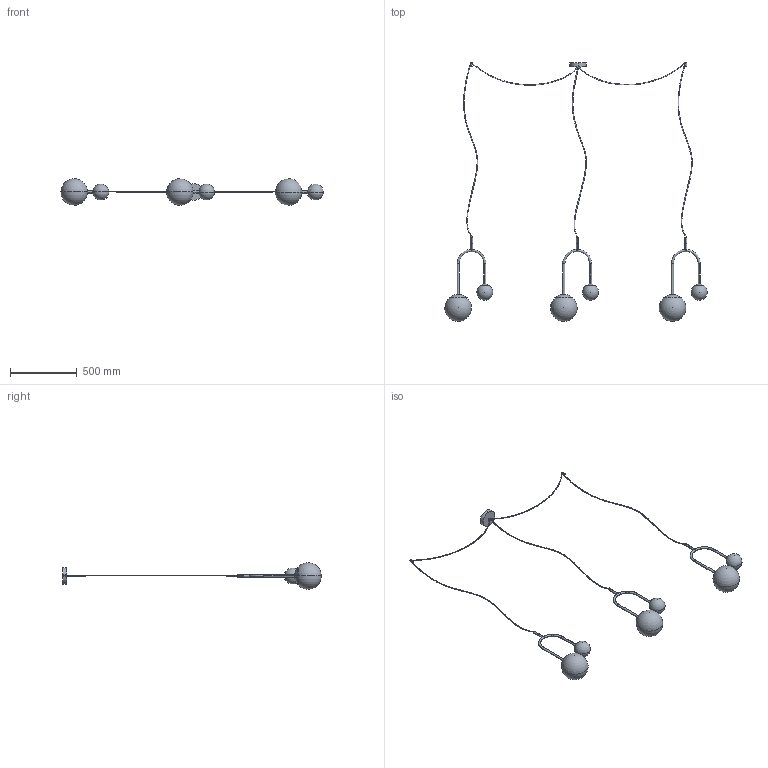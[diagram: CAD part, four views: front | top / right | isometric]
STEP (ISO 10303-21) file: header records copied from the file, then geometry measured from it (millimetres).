
FILE_DESCRIPTION (( 'STEP AP203' ), '1' );
FILE_NAME ('DEC03_Decor 3 sospensione.STEP', '2024-08-06T08:40:33', ( '' ), ( '' ), 'SwSTEP 2.0', 'SolidWorks 2022', '' );
FILE_SCHEMA (( 'CONFIG_CONTROL_DESIGN' ));
Length unit declared in the file: millimetre
Products named in the file (2): SOSPENSIONE7_decor sospensione 3; DEC03_Decor 3 sospensione
Assembly tree (1 placements, depth 2):
  DEC03_Decor 3 sospensione
    SOSPENSIONE7_decor sospensione 3
Bounding box: 1969.49 x 1942.16 x 200 mm (x, y, z)
Volume: 16228867.8 mm3; surface area: 750113.2 mm2
Topology: 7 solids, 7 shells, 111 faces, 262 edges, 163 vertices
Faces by surface type: cylinder 30, sphere 24, bspline 22, plane 21, cone 14
Entity records: 7801 total; most frequent: CARTESIAN_POINT 5451, ORIENTED_EDGE 464, DIRECTION 417, EDGE_CURVE 232, AXIS2_PLACEMENT_3D 186, VERTEX_POINT 145, EDGE_LOOP 121, FACE_OUTER_BOUND 111
